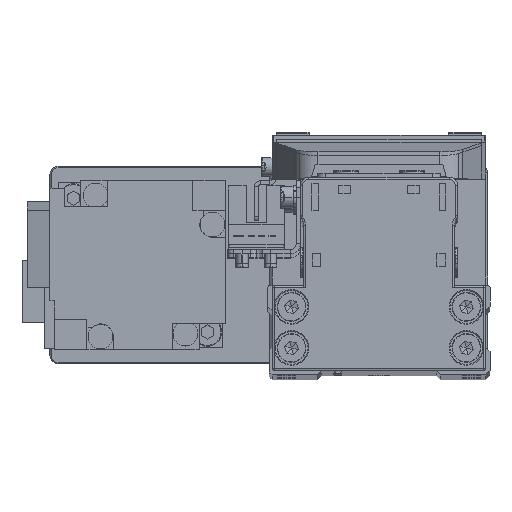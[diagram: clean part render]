
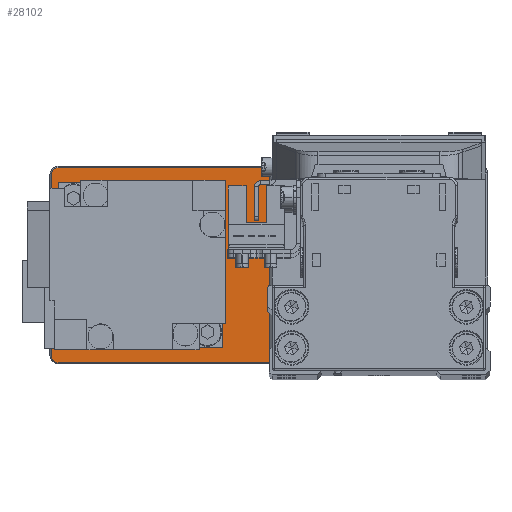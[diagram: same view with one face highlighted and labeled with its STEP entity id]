
A CAD part, top view. The second image highlights one B-rep face of the part: STEP entity #28102.
In plain terms, the highlighted planar face has unit normal (0, 0, 1).
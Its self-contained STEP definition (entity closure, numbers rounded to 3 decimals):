
#820 = CARTESIAN_POINT ( 'NONE',  ( -28., 0., 5. ) ) ;
#857 = DIRECTION ( 'NONE',  ( 0., 0., 1. ) ) ;
#942 = EDGE_CURVE ( 'NONE', #29079, #15532, #27278, .T. ) ;
#1230 = LINE ( 'NONE', #13745, #9999 ) ;
#1495 = CARTESIAN_POINT ( 'NONE',  ( 50., -23.7, 5. ) ) ;
#2108 = ORIENTED_EDGE ( 'NONE', *, *, #2382, .T. ) ;
#2382 = EDGE_CURVE ( 'NONE', #38189, #2876, #23480, .T. ) ;
#2610 = ORIENTED_EDGE ( 'NONE', *, *, #23461, .T. ) ;
#2695 = CARTESIAN_POINT ( 'NONE',  ( 30., 0., 5. ) ) ;
#2876 = VERTEX_POINT ( 'NONE', #16548 ) ;
#3386 = EDGE_LOOP ( 'NONE', ( #16223, #27410, #2610, #23079, #37584, #26073, #33039, #2108 ) ) ;
#3641 = EDGE_CURVE ( 'NONE', #8895, #32250, #39522, .T. ) ;
#4280 = CARTESIAN_POINT ( 'NONE',  ( 51.7, 22., 5. ) ) ;
#4359 = AXIS2_PLACEMENT_3D ( 'NONE', #28864, #857, #13369 ) ;
#4609 = DIRECTION ( 'NONE',  ( 0., 0., 1. ) ) ;
#5064 = CARTESIAN_POINT ( 'NONE',  ( -51.7, 22., 5. ) ) ;
#5269 = CIRCLE ( 'NONE', #28089, 12.8 ) ;
#5865 = AXIS2_PLACEMENT_3D ( 'NONE', #12704, #25116, #37524 ) ;
#5969 = ORIENTED_EDGE ( 'NONE', *, *, #15959, .T. ) ;
#6970 = DIRECTION ( 'NONE',  ( 0., 0., 1. ) ) ;
#7167 = CIRCLE ( 'NONE', #29970, 1.7 ) ;
#7296 = AXIS2_PLACEMENT_3D ( 'NONE', #32562, #4609, #17103 ) ;
#7372 = CARTESIAN_POINT ( 'NONE',  ( 50., 23.7, 5. ) ) ;
#7682 = FACE_OUTER_BOUND ( 'NONE', #3386, .T. ) ;
#8741 = EDGE_CURVE ( 'NONE', #13045, #31238, #33838, .T. ) ;
#8821 = EDGE_CURVE ( 'NONE', #13691, #32523, #7167, .T. ) ;
#8895 = VERTEX_POINT ( 'NONE', #4280 ) ;
#9026 = VECTOR ( 'NONE', #14002, 1000. ) ;
#9380 = CARTESIAN_POINT ( 'NONE',  ( 51.7, -22., 5. ) ) ;
#9510 = CARTESIAN_POINT ( 'NONE',  ( -50., 23.7, 5. ) ) ;
#9644 = DIRECTION ( 'NONE',  ( 0., 0., -1. ) ) ;
#9707 = AXIS2_PLACEMENT_3D ( 'NONE', #9988, #22418, #34819 ) ;
#9768 = LINE ( 'NONE', #22210, #38530 ) ;
#9899 = ORIENTED_EDGE ( 'NONE', *, *, #942, .T. ) ;
#9988 = CARTESIAN_POINT ( 'NONE',  ( -28., 0., 5. ) ) ;
#9999 = VECTOR ( 'NONE', #26156, 1000. ) ;
#12621 = CARTESIAN_POINT ( 'NONE',  ( -50., 22., 5. ) ) ;
#12704 = CARTESIAN_POINT ( 'NONE',  ( -50., -22., 5. ) ) ;
#13045 = VERTEX_POINT ( 'NONE', #28038 ) ;
#13331 = ORIENTED_EDGE ( 'NONE', *, *, #22153, .T. ) ;
#13332 = DIRECTION ( 'NONE',  ( 0., 0., -1. ) ) ;
#13369 = DIRECTION ( 'NONE',  ( 1., 0., 0. ) ) ;
#13691 = VERTEX_POINT ( 'NONE', #32795 ) ;
#13745 = CARTESIAN_POINT ( 'NONE',  ( 51.7, 22., 5. ) ) ;
#14002 = DIRECTION ( 'NONE',  ( 1., 0., 0. ) ) ;
#14382 = AXIS2_PLACEMENT_3D ( 'NONE', #12621, #25036, #37438 ) ;
#14601 = LINE ( 'NONE', #26998, #31081 ) ;
#15212 = DIRECTION ( 'NONE',  ( 0., 0., -1. ) ) ;
#15532 = VERTEX_POINT ( 'NONE', #30301 ) ;
#15959 = EDGE_CURVE ( 'NONE', #31238, #13045, #5269, .T. ) ;
#16223 = ORIENTED_EDGE ( 'NONE', *, *, #31537, .T. ) ;
#16317 = AXIS2_PLACEMENT_3D ( 'NONE', #37543, #9644, #22086 ) ;
#16548 = CARTESIAN_POINT ( 'NONE',  ( -50., -23.7, 5. ) ) ;
#17103 = DIRECTION ( 'NONE',  ( 1., 0., 0. ) ) ;
#17799 = CARTESIAN_POINT ( 'NONE',  ( -38.3, 0., 5. ) ) ;
#18370 = AXIS2_PLACEMENT_3D ( 'NONE', #820, #13332, #25738 ) ;
#18831 = CARTESIAN_POINT ( 'NONE',  ( -51.7, -22., 5. ) ) ;
#19427 = DIRECTION ( 'NONE',  ( 1., 0., 0. ) ) ;
#20137 = PLANE ( 'NONE',  #7296 ) ;
#22086 = DIRECTION ( 'NONE',  ( 1., 0., 0. ) ) ;
#22153 = EDGE_CURVE ( 'NONE', #15532, #29079, #35920, .T. ) ;
#22210 = CARTESIAN_POINT ( 'NONE',  ( -50., 23.7, 5. ) ) ;
#22418 = DIRECTION ( 'NONE',  ( 0., 0., -1. ) ) ;
#23079 = ORIENTED_EDGE ( 'NONE', *, *, #3641, .T. ) ;
#23197 = FACE_BOUND ( 'NONE', #30153, .T. ) ;
#23461 = EDGE_CURVE ( 'NONE', #32523, #8895, #1230, .T. ) ;
#23480 = CIRCLE ( 'NONE', #5865, 1.7 ) ;
#23851 = CARTESIAN_POINT ( 'NONE',  ( 42.8, 0., 5. ) ) ;
#25036 = DIRECTION ( 'NONE',  ( 0., 0., 1. ) ) ;
#25116 = DIRECTION ( 'NONE',  ( 0., 0., 1. ) ) ;
#25738 = DIRECTION ( 'NONE',  ( 1., 0., 0. ) ) ;
#26073 = ORIENTED_EDGE ( 'NONE', *, *, #26602, .T. ) ;
#26156 = DIRECTION ( 'NONE',  ( 0., 1., 0. ) ) ;
#26602 = EDGE_CURVE ( 'NONE', #36548, #32375, #31940, .T. ) ;
#26998 = CARTESIAN_POINT ( 'NONE',  ( -51.7, -22., 5. ) ) ;
#27278 = CIRCLE ( 'NONE', #9707, 10.3 ) ;
#27410 = ORIENTED_EDGE ( 'NONE', *, *, #8821, .T. ) ;
#27609 = DIRECTION ( 'NONE',  ( 1., 0., 0. ) ) ;
#28038 = CARTESIAN_POINT ( 'NONE',  ( 17.2, 0., 5. ) ) ;
#28089 = AXIS2_PLACEMENT_3D ( 'NONE', #2695, #15212, #27609 ) ;
#28102 = ADVANCED_FACE ( 'NONE', ( #23197, #35596, #7682 ), #20137, .T. ) ;
#28864 = CARTESIAN_POINT ( 'NONE',  ( 50., 22., 5. ) ) ;
#29079 = VERTEX_POINT ( 'NONE', #17799 ) ;
#29492 = LINE ( 'NONE', #1495, #9026 ) ;
#29970 = AXIS2_PLACEMENT_3D ( 'NONE', #34897, #6970, #19427 ) ;
#30153 = EDGE_LOOP ( 'NONE', ( #5969, #39593 ) ) ;
#30301 = CARTESIAN_POINT ( 'NONE',  ( -17.7, 0., 5. ) ) ;
#30334 = EDGE_CURVE ( 'NONE', #32375, #38189, #14601, .T. ) ;
#31081 = VECTOR ( 'NONE', #39402, 1000. ) ;
#31238 = VERTEX_POINT ( 'NONE', #23851 ) ;
#31537 = EDGE_CURVE ( 'NONE', #2876, #13691, #29492, .T. ) ;
#31940 = CIRCLE ( 'NONE', #14382, 1.7 ) ;
#32250 = VERTEX_POINT ( 'NONE', #7372 ) ;
#32375 = VERTEX_POINT ( 'NONE', #5064 ) ;
#32523 = VERTEX_POINT ( 'NONE', #9380 ) ;
#32562 = CARTESIAN_POINT ( 'NONE',  ( 0., 0., 5. ) ) ;
#32795 = CARTESIAN_POINT ( 'NONE',  ( 50., -23.7, 5. ) ) ;
#33039 = ORIENTED_EDGE ( 'NONE', *, *, #30334, .T. ) ;
#33838 = CIRCLE ( 'NONE', #16317, 12.8 ) ;
#34626 = DIRECTION ( 'NONE',  ( -1., 0., 0. ) ) ;
#34819 = DIRECTION ( 'NONE',  ( 1., 0., 0. ) ) ;
#34884 = EDGE_CURVE ( 'NONE', #32250, #36548, #9768, .T. ) ;
#34897 = CARTESIAN_POINT ( 'NONE',  ( 50., -22., 5. ) ) ;
#35596 = FACE_BOUND ( 'NONE', #37784, .T. ) ;
#35920 = CIRCLE ( 'NONE', #18370, 10.3 ) ;
#36548 = VERTEX_POINT ( 'NONE', #9510 ) ;
#37438 = DIRECTION ( 'NONE',  ( 1., 0., 0. ) ) ;
#37524 = DIRECTION ( 'NONE',  ( 1., 0., 0. ) ) ;
#37543 = CARTESIAN_POINT ( 'NONE',  ( 30., 0., 5. ) ) ;
#37584 = ORIENTED_EDGE ( 'NONE', *, *, #34884, .T. ) ;
#37784 = EDGE_LOOP ( 'NONE', ( #13331, #9899 ) ) ;
#38189 = VERTEX_POINT ( 'NONE', #18831 ) ;
#38530 = VECTOR ( 'NONE', #34626, 1000. ) ;
#39402 = DIRECTION ( 'NONE',  ( 0., -1., 0. ) ) ;
#39522 = CIRCLE ( 'NONE', #4359, 1.7 ) ;
#39593 = ORIENTED_EDGE ( 'NONE', *, *, #8741, .T. ) ;
